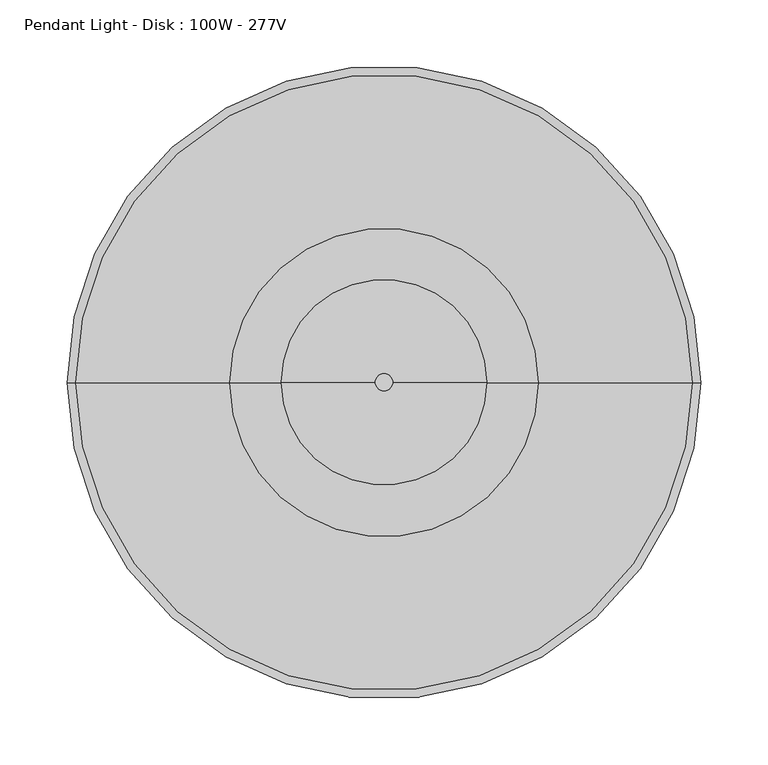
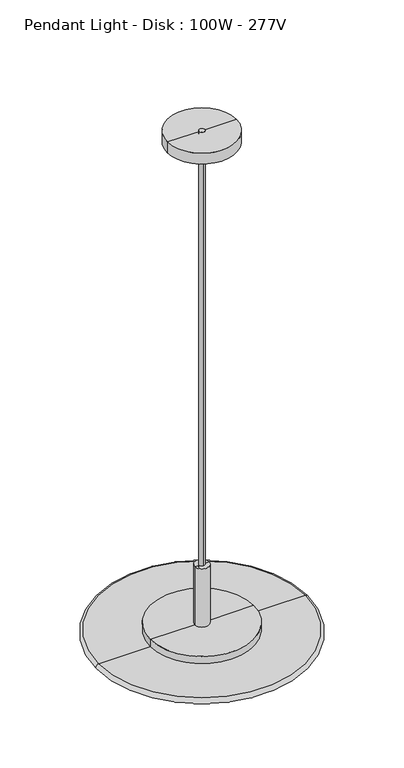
"""IFC4 building model written with IfcOpenShell, lengths in millimetres: light fixture geometry, Pendant Light - Disk : 100W - 277V."""

import ifcopenshell
import ifcopenshell.guid

model = None  # the IFC model being written
_history = None  # IfcOwnerHistory: only IFC2X3 demands one
_inside = {}  # id of a spatial element -> (the spatial element, [elements in it])
_under = {}  # id of a project, library or spatial element -> (it, [spatial elements below it])
_declared = {}  # id of a project -> (the project, [libraries it declares])
_typed = {}  # id of a type object -> (the type object, [elements of that type])
_made_of = {}  # id of a material, layer set ... -> (it, [elements and type objects made of it])


def new_model(schema):
    """Start an empty IFC model of exactly this schema.

    Asked for "IFC4X3", IfcOpenShell would pick the latest addendum, in which some entities
    have other attributes; the version numbers below select the first issue.
    IFC2X3 requires an IfcOwnerHistory on every rooted entity: one is made here for all.
    """
    global model, _history
    if schema == "IFC4X3":
        model = ifcopenshell.file(schema_version=(4, 3, 0, 0))
    else:
        model = ifcopenshell.file(schema=schema)
    _inside.clear()
    _under.clear()
    _declared.clear()
    _typed.clear()
    _made_of.clear()
    _history = None
    if model.schema == "IFC2X3":
        org = make("IfcOrganization", Name="unknown")
        user = make(
            "IfcPersonAndOrganization",
            ThePerson=make("IfcPerson", FamilyName="unknown"),
            TheOrganization=org,
        )
        app = make(
            "IfcApplication",
            ApplicationDeveloper=org,
            Version="unknown",
            ApplicationFullName="unknown",
            ApplicationIdentifier="unknown",
        )
        _history = make(
            "IfcOwnerHistory",
            OwningUser=user,
            OwningApplication=app,
            ChangeAction="ADDED",
            CreationDate=0,
        )
    return model


def make(cls, **values):
    """One entity of the class cls with the attributes given. An attribute that is None is left unset."""
    return model.create_entity(
        cls, **{name: value for name, value in values.items() if value is not None}
    )


def rooted(cls, **values):
    """An entity with a GlobalId (a new one), such as an element, a storey or a relation."""
    return make(cls, GlobalId=ifcopenshell.guid.new(), OwnerHistory=_history, **values)


def si_unit(unit_type, name, prefix=None):
    """IfcSIUnit, for example si_unit("LENGTHUNIT", "METRE", prefix="MILLI")."""
    return make("IfcSIUnit", UnitType=unit_type, Prefix=prefix, Name=name)


def assignment(units):
    """IfcUnitAssignment: the units of a project."""
    return None if units is None else make("IfcUnitAssignment", Units=units)


def point(xyz):
    """IfcCartesianPoint."""
    return None if xyz is None else make("IfcCartesianPoint", Coordinates=xyz)


def direction(xyz):
    """IfcDirection."""
    return None if xyz is None else make("IfcDirection", DirectionRatios=xyz)


def frame(location, z_axis=None, x_axis=None):
    """IfcAxis2Placement3D, a coordinate frame: its origin and axes. An axis left out is left unset."""
    return make(
        "IfcAxis2Placement3D",
        Location=point(location),
        Axis=direction(z_axis),
        RefDirection=direction(x_axis),
    )


def frame_2d(location, x_axis=None):
    """IfcAxis2Placement2D, a coordinate frame in the plane: its origin and x axis."""
    return make(
        "IfcAxis2Placement2D", Location=point(location), RefDirection=direction(x_axis)
    )


def origin():
    """The frame at (0, 0, 0) with its axes left unset."""
    return frame((0.0, 0.0, 0.0))


def origin_2d():
    """The frame at (0, 0) in the plane with its x axis left unset."""
    return frame_2d((0.0, 0.0))


def place(relative_to, where):
    """IfcLocalPlacement: puts the frame where relative to a parent placement (None: the world)."""
    return make(
        "IfcLocalPlacement", PlacementRelTo=relative_to, RelativePlacement=where
    )


def context(
    kind, dimensions, precision=None, world=None, true_north=None, identifier=None
):
    """IfcGeometricRepresentationContext, for example the 3D "Model" context."""
    return make(
        "IfcGeometricRepresentationContext",
        ContextIdentifier=identifier,
        ContextType=kind,
        CoordinateSpaceDimension=dimensions,
        Precision=precision,
        WorldCoordinateSystem=world,
        TrueNorth=true_north,
    )


def project(units=None, contexts=None):
    """IfcProject with its units and contexts."""
    return rooted(
        "IfcProject",
        Name="project",
        RepresentationContexts=contexts,
        UnitsInContext=assignment(units),
    )


def spatial(cls, under=None, at=None, **own):
    """A site, building, storey or space (cls), placed at a placement, below another one or the project."""
    s = rooted(cls, ObjectPlacement=at, **own)
    if under is not None:
        _under.setdefault(under.id(), (under, []))[1].append(s)
    return s


def polyline(points):
    """IfcPolyline through the points."""
    return make("IfcPolyline", Points=[point(p) for p in points])


def circle_curve(where, radius):
    """IfcCircle in the frame where."""
    return make("IfcCircle", Position=where, Radius=radius)


def ellipse_curve(where, semi_axis1, semi_axis2):
    """IfcEllipse in the frame where."""
    return make(
        "IfcEllipse", Position=where, SemiAxis1=semi_axis1, SemiAxis2=semi_axis2
    )


def trimmed(basis, trim1, trim2, sense, master):
    """IfcTrimmedCurve: the piece of a basis curve between two trims."""
    return make(
        "IfcTrimmedCurve",
        BasisCurve=basis,
        Trim1=trim1,
        Trim2=trim2,
        SenseAgreement=sense,
        MasterRepresentation=master,
    )


def segment(curve, same_sense, transition):
    """IfcCompositeCurveSegment."""
    return make(
        "IfcCompositeCurveSegment",
        Transition=transition,
        SameSense=same_sense,
        ParentCurve=curve,
    )


def composite_curve(segments, self_intersect=None):
    """IfcCompositeCurve: segments joined end to end."""
    return make("IfcCompositeCurve", Segments=segments, SelfIntersect=self_intersect)


def outline(outer, holes=None, kind="AREA"):
    """IfcArbitraryClosedProfileDef: a profile drawn as a closed curve; with holes, ...WithVoids."""
    if holes is None:
        return make("IfcArbitraryClosedProfileDef", ProfileType=kind, OuterCurve=outer)
    return make(
        "IfcArbitraryProfileDefWithVoids",
        ProfileType=kind,
        OuterCurve=outer,
        InnerCurves=holes,
    )


def extrude(swept, where, along, depth):
    """IfcExtrudedAreaSolid: the profile swept, set in the frame where, extruded along a direction by depth."""
    return make(
        "IfcExtrudedAreaSolid",
        SweptArea=swept,
        Position=where,
        ExtrudedDirection=direction(along),
        Depth=depth,
    )


def shape(context_of_items, identifier, shape_type, items):
    """IfcShapeRepresentation: the items that make up one representation, for example the "Body"."""
    return make(
        "IfcShapeRepresentation",
        ContextOfItems=context_of_items,
        RepresentationIdentifier=identifier,
        RepresentationType=shape_type,
        Items=items,
    )


def source(mapping_origin, context_of_items, identifier, shape_type, items):
    """IfcRepresentationMap: a shape defined once, which mapped items show again and again."""
    return make(
        "IfcRepresentationMap",
        MappingOrigin=mapping_origin,
        MappedRepresentation=shape(context_of_items, identifier, shape_type, items),
    )


def transform(
    local_origin,
    x_axis=None,
    y_axis=None,
    z_axis=None,
    scale=None,
    scale2=None,
    scale3=None,
    uniform=True,
):
    """IfcCartesianTransformationOperator3D, or its non-uniform kind. x_axis, y_axis, z_axis: its Axis1, 2, 3."""
    if uniform:
        return make(
            "IfcCartesianTransformationOperator3D",
            Axis1=direction(x_axis),
            Axis2=direction(y_axis),
            LocalOrigin=point(local_origin),
            Scale=scale,
            Axis3=direction(z_axis),
        )
    return make(
        "IfcCartesianTransformationOperator3DnonUniform",
        Axis1=direction(x_axis),
        Axis2=direction(y_axis),
        LocalOrigin=point(local_origin),
        Scale=scale,
        Axis3=direction(z_axis),
        Scale2=scale2,
        Scale3=scale3,
    )


def mapped(mapping_source, mapping_target):
    """IfcMappedItem: shows the shape of a source again, moved by a transform."""
    return make(
        "IfcMappedItem", MappingSource=mapping_source, MappingTarget=mapping_target
    )


def made_of(thing, what):
    """Note that an element or type object is made of a material, layer set ...; save() writes the relation."""
    if what is not None:
        _made_of.setdefault(what.id(), (what, []))[1].append(thing)
    return thing


def element(
    cls,
    number,
    at=None,
    inside=None,
    cuts=None,
    type_object=None,
    material=None,
    context=None,
    identifier="Body",
    shape_type=None,
    held_by="IfcProductDefinitionShape",
    body=None,
    shapes=None,
    **own,
):
    """One element of the class cls, such as IfcWall. Its Tag is "e" and its number.

    at: its placement. inside: the storey or other place that contains it. cuts: it is an
    opening in that element (IfcRelVoidsElement). A single representation is given by context,
    identifier, shape_type and body (its items); several are given by shapes. held_by: the class
    of the entity that holds the representations. save() writes the other relations.
    """
    e = rooted(cls, Tag="e%d" % number, ObjectPlacement=at, **own)
    if body is not None:
        shapes = [shape(context, identifier, shape_type, body)]
    if shapes is not None:
        e.Representation = make(held_by, Representations=shapes)
    if inside is not None:
        _inside.setdefault(inside.id(), (inside, []))[1].append(e)
    if cuts is not None:
        rooted(
            "IfcRelVoidsElement", RelatingBuildingElement=cuts, RelatedOpeningElement=e
        )
    if type_object is not None:
        _typed.setdefault(type_object.id(), (type_object, []))[1].append(e)
    return made_of(e, material)


def aggregate(whole, parts):
    """IfcRelAggregates: a whole, such as a stair, and the parts it consists of."""
    return rooted("IfcRelAggregates", RelatingObject=whole, RelatedObjects=parts)


def save(model, path):
    """Write the relations noted so far, then the file.

    IfcRelAggregates (storeys below a building ...), IfcRelContainedInSpatialStructure (elements
    in a storey), IfcRelDefinesByType, IfcRelAssociatesMaterial and IfcRelDeclares: one each for
    every whole, place, type object, material and project.
    """
    for whole, parts in _under.values():
        aggregate(whole, parts)
    for where, things in _inside.values():
        rooted(
            "IfcRelContainedInSpatialStructure",
            RelatedElements=things,
            RelatingStructure=where,
        )
    for kind, things in _typed.values():
        rooted("IfcRelDefinesByType", RelatedObjects=things, RelatingType=kind)
    for what, things in _made_of.values():
        rooted("IfcRelAssociatesMaterial", RelatedObjects=things, RelatingMaterial=what)
    for by, libraries in _declared.values():
        rooted("IfcRelDeclares", RelatingContext=by, RelatedDefinitions=libraries)
    model.write(path)


def plane_surface(at):
    """IfcPlane: the flat surface through the origin of the frame at, square to its z axis."""
    return make("IfcPlane", Position=at)


def cylinder_surface(at, radius):
    """IfcCylindricalSurface: all points at the distance radius from the z axis of the frame at."""
    return make("IfcCylindricalSurface", Position=at, Radius=radius)


def revolved_surface(curve, axis_point, axis_direction):
    """IfcSurfaceOfRevolution: the curve turned about the line through axis_point along axis_direction."""
    return make(
        "IfcSurfaceOfRevolution",
        SweptCurve=make("IfcArbitraryOpenProfileDef", ProfileType="CURVE", Curve=curve),
        AxisPosition=make("IfcAxis1Placement", Location=point(axis_point), Axis=direction(axis_direction)),
    )


def advanced_brep(points, edges, surfaces, faces):
    """IfcAdvancedBrep: a solid bounded by faces that lie on surfaces and meet in shared edges.

    An edge is (start, end): straight between two places in points (the first is 0);
    or (start, end, curve); or (start, end, curve, False) where it runs against its curve.
    A face is (place in surfaces, loops), or (place, loops, False) where it looks against
    its surface's normal. A loop lists edges by number (the first is 1), with a minus sign
    where the edge is run from its end to its start. The first loop is the outer one.
    """
    corners = [point(p) for p in points]
    vertices = [make("IfcVertexPoint", VertexGeometry=c) for c in corners]
    made = []
    for start, end, *more in edges:
        made.append(
            make(
                "IfcEdgeCurve",
                EdgeStart=vertices[start],
                EdgeEnd=vertices[end],
                EdgeGeometry=more[0] if more else make("IfcPolyline", Points=[corners[start], corners[end]]),
                SameSense=more[1] if len(more) > 1 else True,
            )
        )
    hull = []
    for where, loops, *sense in faces:
        bounds = []
        for j, loop in enumerate(loops):
            ring = [make("IfcOrientedEdge", EdgeElement=made[abs(k) - 1], Orientation=k > 0) for k in loop]
            bounds.append(
                make(
                    "IfcFaceOuterBound" if j == 0 else "IfcFaceBound",
                    Bound=make("IfcEdgeLoop", EdgeList=ring),
                    Orientation=True,
                )
            )
        hull.append(make("IfcAdvancedFace", Bounds=bounds, FaceSurface=surfaces[where], SameSense=sense[0] if sense else True))
    return make("IfcAdvancedBrep", Outer=make("IfcClosedShell", CfsFaces=hull))


def pendant_light_disk_100w_277v_8fe910f4(model_context):
    return source(origin(), model_context, "Body", "SolidModel", [
        advanced_brep(
        [(15.875, 0.0, 1286.475253), (-15.875, 0.0, 1286.475253), (-15.875, 0.0, 1422.55), (15.875, 0.0, 1422.55), (114.3, 0.0, 1286.475253), (-114.3, 0.0, 1286.475253), (114.3, 0.0, 1251.1000062), (-114.3, 0.0, 1251.1000062), (38.1, 0.0, 1251.1000062), (-38.1, 0.0, 1251.1000062), (38.1, 0.0, 1270.15), (-38.1, 0.0, 1270.15), (0.0, 0.0, 1270.15), (0.0, 0.0, 1422.55)],
        [
            (0, 1, circle_curve(frame((0.0, 0.0, 1286.475253), z_axis=(0.0, 0.0, 1.0), x_axis=(-1.0, 0.0, 0.0)), 15.875)),
            (1, 2),
            (2, 3, circle_curve(frame((0.0, 0.0, 1422.55), z_axis=(0.0, 0.0, -1.0), x_axis=(-1.0, 0.0, 0.0)), 15.875)),
            (3, 0),
            (1, 0, circle_curve(frame((0.0, 0.0, 1286.475253), z_axis=(0.0, 0.0, 1.0), x_axis=(-1.0, 0.0, 0.0)), 15.875)),
            (3, 2, circle_curve(frame((0.0, 0.0, 1422.55), z_axis=(0.0, 0.0, -1.0), x_axis=(-1.0, 0.0, 0.0)), 15.875)),
            (4, 5, circle_curve(frame((0.0, 0.0, 1286.475253), z_axis=(0.0, 0.0, 1.0), x_axis=(-1.0, 0.0, 0.0)), 114.3)),
            (5, 1),
            (0, 4),
            (5, 4, circle_curve(frame((0.0, 0.0, 1286.475253), z_axis=(0.0, 0.0, 1.0), x_axis=(-1.0, 0.0, 0.0)), 114.3)),
            (6, 7, circle_curve(frame((0.0, 0.0, 1251.1000062), z_axis=(0.0, 0.0, 1.0), x_axis=(-1.0, 0.0, 0.0)), 114.3)),
            (7, 5),
            (4, 6),
            (7, 6, circle_curve(frame((0.0, 0.0, 1251.1000062), z_axis=(0.0, 0.0, 1.0), x_axis=(-1.0, 0.0, 0.0)), 114.3)),
            (8, 9, circle_curve(frame((0.0, 0.0, 1251.1000062), z_axis=(0.0, 0.0, 1.0), x_axis=(-1.0, 0.0, 0.0)), 38.1)),
            (9, 7),
            (6, 8),
            (9, 8, circle_curve(frame((0.0, 0.0, 1251.1000062), z_axis=(0.0, 0.0, 1.0), x_axis=(-1.0, 0.0, 0.0)), 38.1)),
            (10, 11, circle_curve(frame((0.0, 0.0, 1270.15), z_axis=(0.0, 0.0, 1.0), x_axis=(-1.0, 0.0, 0.0)), 38.1)),
            (11, 9),
            (8, 10),
            (11, 10, circle_curve(frame((0.0, 0.0, 1270.15), z_axis=(0.0, 0.0, 1.0), x_axis=(-1.0, 0.0, 0.0)), 38.1)),
            (12, 11),
            (10, 12),
            (2, 13),
            (13, 3),
        ],
        [
            cylinder_surface(frame((0.0, 0.0, 1446.6629221), z_axis=(0.0, 0.0, -1.0), x_axis=(-1.0, 0.0, 0.0)), 15.875),
            plane_surface(frame((0.0, 0.0, 1286.475253), z_axis=(0.0, 0.0, 1.0), x_axis=(-1.0, 0.0, 0.0))),
            cylinder_surface(frame((0.0, 0.0, 1446.6629221), z_axis=(0.0, 0.0, -1.0), x_axis=(-1.0, 0.0, 0.0)), 114.3),
            plane_surface(frame((0.0, 0.0, 1251.1000062), z_axis=(0.0, 0.0, -1.0), x_axis=(-1.0, 0.0, 0.0))),
            revolved_surface(polyline([(-38.1, 0.0, 1251.1000062), (-38.1, 0.0, 1270.15)]), (0.0, 0.0, 1446.6629221), (0.0, 0.0, -1.0)),
            plane_surface(frame((0.0, 0.0, 1270.15), z_axis=(0.0, 0.0, -1.0), x_axis=(-1.0, 0.0, 0.0))),
            plane_surface(frame((0.0, 0.0, 1422.55), z_axis=(0.0, 0.0, 1.0), x_axis=(-1.0, 0.0, 0.0))),
        ],
        [
            (0, [[1, 2, 3, 4]]),
            (0, [[5, -4, 6, -2]]),
            (1, [[7, 8, -1, 9]]),
            (1, [[10, -9, -5, -8]]),
            (2, [[11, 12, -7, 13]]),
            (2, [[14, -13, -10, -12]]),
            (3, [[15, 16, -11, 17]]),
            (3, [[18, -17, -14, -16]]),
            (4, [[19, 20, -15, 21]]),
            (4, [[22, -21, -18, -20]]),
            (5, [[23, -19, 24]]),
            (5, [[-24, -22, -23]]),
            (6, [[-3, 25, 26]]),
            (6, [[-6, -26, -25]]),
        ],
    ),
        extrude(outline(composite_curve([segment(trimmed(circle_curve(origin_2d(), 6.35), [point((0.0, 6.35))], [point((0.0, -6.35))], False, "CARTESIAN"), True, "CONTINUOUS"), segment(trimmed(circle_curve(origin_2d(), 6.35), [point((0.0, -6.35))], [point((0.0, 6.35))], False, "CARTESIAN"), True, "CONTINUOUS")], self_intersect=False)), frame((0.0, 0.0, 1251.1000062), z_axis=(0.0, 0.0, 1.0), x_axis=(1.0, 0.0, 0.0)), (0.0, 0.0, 1.0), 1187.3),
        advanced_brep(
        [(0.0, 0.0, 1257.45), (-228.6, 0.0, 1257.45), (228.6, 0.0, 1257.45), (228.6, 0.0, 1270.15), (-228.6, 0.0, 1270.15), (0.0, 0.0, 1270.15)],
        [
            (0, 1),
            (1, 2, circle_curve(frame((0.0, 0.0, 1257.45), z_axis=(0.0, 0.0, -1.0), x_axis=(-1.0, 0.0, 0.0)), 228.6)),
            (2, 0),
            (2, 1, circle_curve(frame((0.0, 0.0, 1257.45), z_axis=(0.0, 0.0, -1.0), x_axis=(-1.0, 0.0, 0.0)), 228.6)),
            (3, 4, circle_curve(frame((0.0, 0.0, 1270.15), z_axis=(0.0, 0.0, 1.0), x_axis=(-1.0, 0.0, 0.0)), 228.6)),
            (4, 5),
            (5, 3),
            (4, 3, circle_curve(frame((0.0, 0.0, 1270.15), z_axis=(0.0, 0.0, 1.0), x_axis=(-1.0, 0.0, 0.0)), 228.6)),
            (1, 4, circle_curve(frame((-228.6, 0.0, 1263.8), z_axis=(0.0, 1.0, 0.0), x_axis=(0.0, 0.0, -1.0)), 6.35)),
            (3, 2, circle_curve(frame((228.6, 0.0, 1263.8), z_axis=(0.0, 1.0, 0.0), x_axis=(0.0, 0.0, -1.0)), 6.35)),
        ],
        [
            plane_surface(frame((0.0, 0.0, 1257.45), z_axis=(0.0, 0.0, -1.0), x_axis=(-1.0, 0.0, 0.0))),
            plane_surface(frame((0.0, 0.0, 1270.15), z_axis=(0.0, 0.0, 1.0), x_axis=(-1.0, 0.0, 0.0))),
            revolved_surface(trimmed(ellipse_curve(frame((-228.6, 0.0, 1263.8), z_axis=(0.0, -1.0, 0.0), x_axis=(0.0, 0.0, -1.0)), 6.35, 6.35), [point((-228.6, 0.0, 1270.15))], [point((-228.6, 0.0, 1257.45))], True, "CARTESIAN"), (0.0, 0.0, 1335.2510876), (0.0, 0.0, -1.0)),
        ],
        [
            (0, [[1, 2, 3]]),
            (0, [[-3, 4, -1]]),
            (1, [[5, 6, 7]]),
            (1, [[8, -7, -6]]),
            (2, [[-2, 9, -5, 10]]),
            (2, [[-4, -10, -8, -9]]),
        ],
    ),
        advanced_brep(
        [(76.2, 0.0, 2413.0000062), (-76.2, 0.0, 2413.0000062), (-76.2, 0.0, 2438.4000062), (76.2, 0.0, 2438.4000062), (0.0, 0.0, 2377.4673627), (0.0, 0.0, 2438.4000062)],
        [
            (0, 1, circle_curve(frame((0.0, 0.0, 2413.0000062), z_axis=(0.0, 0.0, 1.0), x_axis=(-1.0, 0.0, 0.0)), 76.2)),
            (1, 2),
            (2, 3, circle_curve(frame((0.0, 0.0, 2438.4000062), z_axis=(0.0, 0.0, -1.0), x_axis=(-1.0, 0.0, 0.0)), 76.2)),
            (3, 0),
            (1, 0, circle_curve(frame((0.0, 0.0, 2413.0000062), z_axis=(0.0, 0.0, 1.0), x_axis=(-1.0, 0.0, 0.0)), 76.2)),
            (3, 2, circle_curve(frame((0.0, 0.0, 2438.4000062), z_axis=(0.0, 0.0, -1.0), x_axis=(-1.0, 0.0, 0.0)), 76.2)),
            (4, 1),
            (0, 4),
            (2, 5),
            (5, 3),
        ],
        [
            cylinder_surface(frame((0.0, 0.0, 2514.6000062), z_axis=(0.0, 0.0, -1.0), x_axis=(-1.0, 0.0, 0.0)), 76.2),
            revolved_surface(polyline([(-76.2, 0.0, 2413.0000062), (0.0, 0.0, 2377.4673627)]), (0.0, 0.0, 2514.6000062), (0.0, 0.0, -1.0)),
            plane_surface(frame((0.0, 0.0, 2438.4000062), z_axis=(0.0, 0.0, 1.0), x_axis=(-1.0, 0.0, 0.0))),
        ],
        [
            (0, [[1, 2, 3, 4]]),
            (0, [[5, -4, 6, -2]]),
            (1, [[7, -1, 8]]),
            (1, [[-8, -5, -7]]),
            (2, [[-3, 9, 10]]),
            (2, [[-6, -10, -9]]),
        ],
    ),
    ])


if __name__ == "__main__":
    model = new_model("IFC4")
    model_context = context("Model", 3, world=origin())
    ifc_project = project(units=[si_unit("LENGTHUNIT", "METRE", prefix="MILLI")], contexts=[model_context])
    site = spatial("IfcSite", under=ifc_project)
    building = spatial("IfcBuilding", under=site)
    placement = place(None, origin())
    pendant_light_disk_100w_277v_shape = pendant_light_disk_100w_277v_8fe910f4(model_context)
    element("IfcLightFixture", 1, ObjectType="Pendant Light - Disk : 100W - 277V", at=placement, inside=building, context=model_context, shape_type="MappedRepresentation", body=[
        mapped(pendant_light_disk_100w_277v_shape, transform((0.0, 0.0, 0.0), x_axis=(1.0, 0.0, 0.0), y_axis=(0.0, 1.0, 0.0), z_axis=(0.0, 0.0, 1.0))),
    ])
    save(model, "model.ifc")
